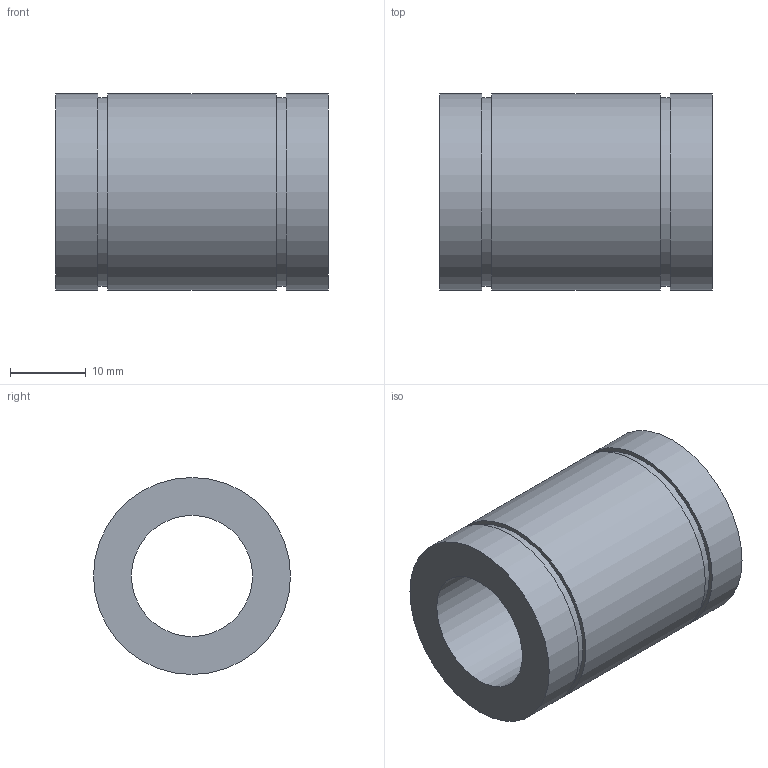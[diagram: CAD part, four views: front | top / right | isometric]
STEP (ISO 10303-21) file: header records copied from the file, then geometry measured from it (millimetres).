
FILE_DESCRIPTION(('FreeCAD Model'),'2;1');
FILE_NAME('Open CASCADE Shape Model','2021-05-03T11:28:50',('Author'),( ''),'Open CASCADE STEP processor 7.5','FreeCAD','Unknown');
FILE_SCHEMA(('AUTOMOTIVE_DESIGN { 1 0 10303 214 1 1 1 1 }'));
Length unit declared in the file: millimetre
Products named in the file (1): _LME16UU
Bounding box: 36 x 26 x 26 mm (x, y, z)
Volume: 11760.9 mm3; surface area: 5576.7 mm2
Topology: 1 solids, 1 shells, 12 faces, 18 edges, 12 vertices
Faces by surface type: plane 6, cylinder 6
Full cylindrical faces by diameter (mm): 16 x1, 24.9 x2, 26 x3
Entity records: 546 total; most frequent: CARTESIAN_POINT 121, DIRECTION 80, ORIENTED_EDGE 36, PCURVE 36, DEFINITIONAL_REPRESENTATION 36, AXIS2_PLACEMENT_3D 25, LINE 24, VECTOR 24
